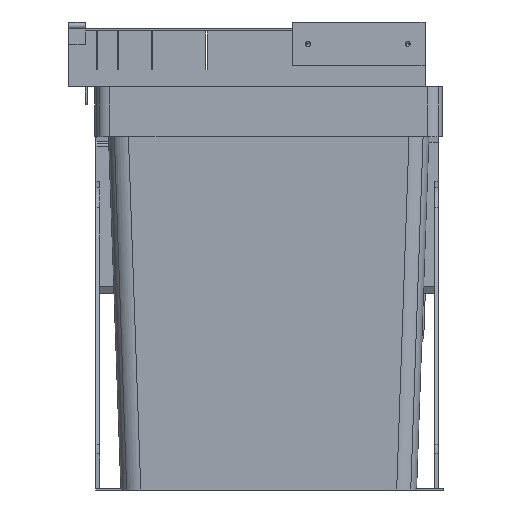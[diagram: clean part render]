
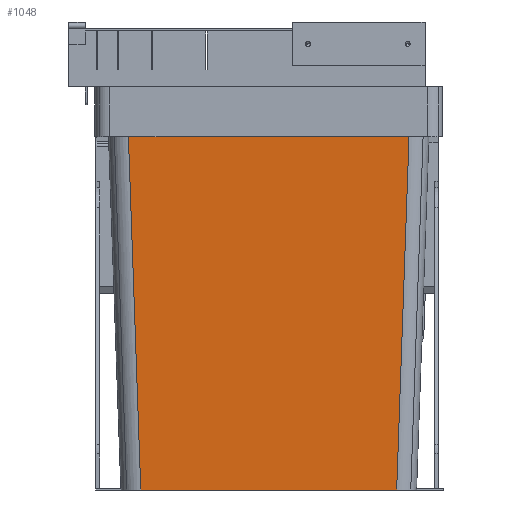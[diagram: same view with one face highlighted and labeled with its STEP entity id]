
A CAD part, left-side view. The second image highlights one B-rep face of the part: STEP entity #1048.
In plain terms, the highlighted planar face has unit normal (-0.999, 0, -0.035).
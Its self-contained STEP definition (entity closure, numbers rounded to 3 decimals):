
#1048=ADVANCED_FACE('',(#2130),#2131,.T.);
#2130=FACE_OUTER_BOUND('',#3361,.T.);
#2131=PLANE('',#3362);
#3361=EDGE_LOOP('',(#6770,#6771,#6772,#6773));
#3362=AXIS2_PLACEMENT_3D('',#6774,#6775,#6776);
#6770=ORIENTED_EDGE('',*,*,#7098,.F.);
#6771=ORIENTED_EDGE('',*,*,#8408,.F.);
#6772=ORIENTED_EDGE('',*,*,#8409,.F.);
#6773=ORIENTED_EDGE('',*,*,#8294,.T.);
#6774=CARTESIAN_POINT('',(-223.0,28.0,0.));
#6775=DIRECTION('',(-0.999,0.,-0.035));
#6776=DIRECTION('',(0.,-1.0,0.0));
#7098=EDGE_CURVE('',#8530,#8532,#8533,.T.);
#8294=EDGE_CURVE('',#10315,#8532,#10316,.T.);
#8408=EDGE_CURVE('',#10484,#8530,#10485,.T.);
#8409=EDGE_CURVE('',#10315,#10484,#10486,.T.);
#8530=VERTEX_POINT('',#10643);
#8532=VERTEX_POINT('',#10645);
#8533=LINE('',#10646,#10647);
#10315=VERTEX_POINT('',#13239);
#10316=LINE('',#13240,#13241);
#10484=VERTEX_POINT('',#13470);
#10485=LINE('',#13471,#13472);
#10486=LINE('',#13473,#13474);
#10643=CARTESIAN_POINT('',(-223.0,305.012,0.));
#10645=CARTESIAN_POINT('',(-235.397,317.409,355.0));
#10646=CARTESIAN_POINT('',(-222.844,304.856,-4.477));
#10647=VECTOR('',#13667,10.0);
#13239=CARTESIAN_POINT('',(-235.397,35.591,355.0));
#13240=CARTESIAN_POINT('',(-235.397,102.25,355.0));
#13241=VECTOR('',#15037,10.0);
#13470=CARTESIAN_POINT('',(-223.0,47.988,0.));
#13471=CARTESIAN_POINT('',(-223.0,14.0,0.));
#13472=VECTOR('',#15174,10.0);
#13473=CARTESIAN_POINT('',(-222.844,48.144,-4.477));
#13474=VECTOR('',#15175,10.0);
#13667=DIRECTION('',(-0.035,0.035,0.999));
#15037=DIRECTION('',(0.,1.0,0.0));
#15174=DIRECTION('',(0.,1.0,0.0));
#15175=DIRECTION('',(0.035,0.035,-0.999));
